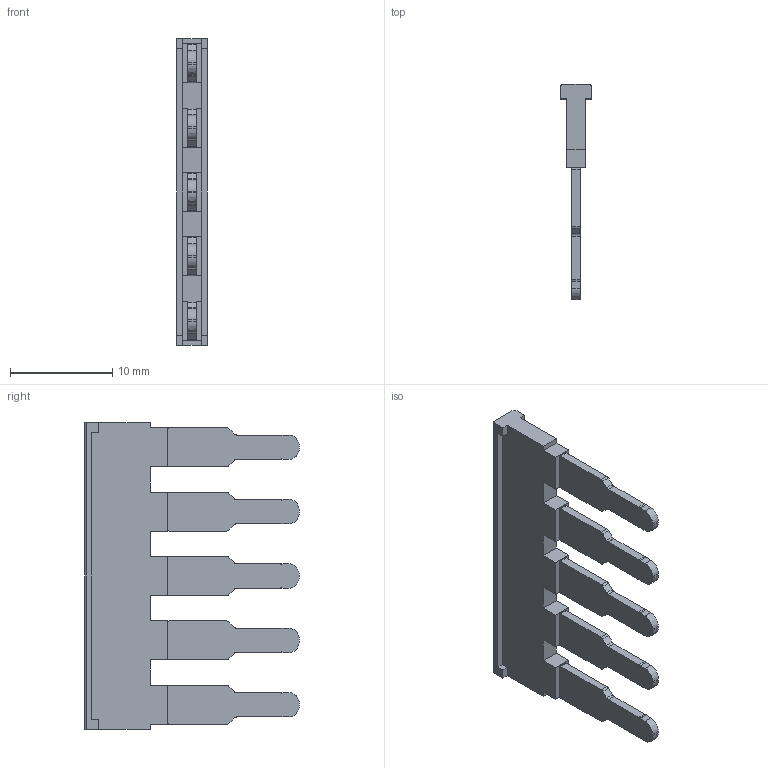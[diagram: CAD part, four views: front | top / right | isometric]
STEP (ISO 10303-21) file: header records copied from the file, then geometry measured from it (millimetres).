
FILE_DESCRIPTION(('Creo Elements/Direct Modeling STEP Export'),'2;1');
FILE_NAME('EFB0405R.stp','2019-07-26T14:39:27',(''),(''),'Creo Elements/Direct Modeling STEP processor for AP214 (Solid Model)','Creo Elements/Direct Modeling 20.1 10-Mar-2018 (C) Parametric Technology GmbH','');
FILE_SCHEMA(('AUTOMOTIVE_DESIGN { 1 0 10303 214 1 1 1 1 }'));
Length unit declared in the file: millimetre
Products named in the file (2): EFB0405R
Assembly tree (1 placements, depth 2):
  EFB0405R
    EFB0405R
Bounding box: 3 x 21.01 x 30 mm (x, y, z)
Volume: 586.9 mm3; surface area: 1172.1 mm2
Topology: 1 solids, 1 shells, 175 faces, 504 edges, 336 vertices
Faces by surface type: plane 113, cylinder 42, extrusion 20
Entity records: 6316 total; most frequent: CARTESIAN_POINT 1320, ORIENTED_EDGE 1008, DIRECTION 854, EDGE_CURVE 504, VECTOR 394, LINE 374, VERTEX_POINT 336, AXIS2_PLACEMENT_3D 230
